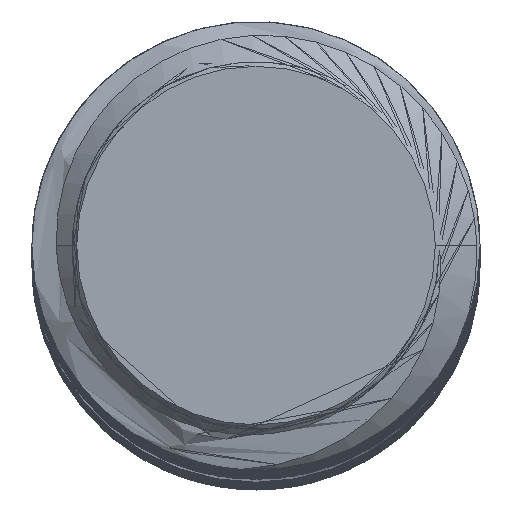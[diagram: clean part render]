
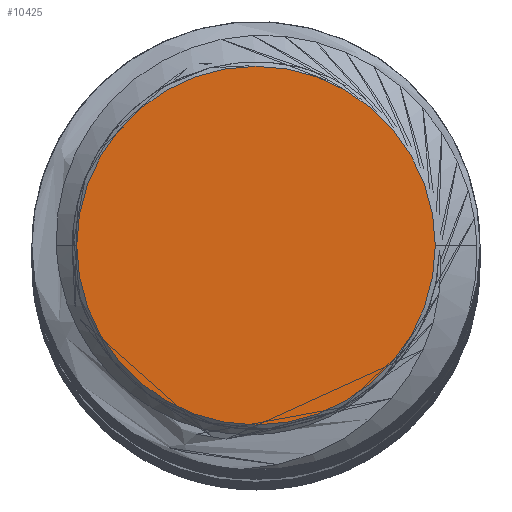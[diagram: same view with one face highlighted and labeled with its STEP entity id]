
A CAD part, top view. The second image highlights one B-rep face of the part: STEP entity #10425.
In plain terms, the highlighted planar face has unit normal (0, 0, 1).
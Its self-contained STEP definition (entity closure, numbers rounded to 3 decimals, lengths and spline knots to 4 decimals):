
#1847 = VERTEX_POINT ( 'NONE', #41661 ) ;
#2759 = VERTEX_POINT ( 'NONE', #13236 ) ;
#4258 = CARTESIAN_POINT ( 'NONE',  ( 0., 0., 260. ) ) ;
#9347 = DIRECTION ( 'NONE',  ( 0., 0., 1. ) ) ;
#10425 = ADVANCED_FACE ( 'NONE', ( #48718 ), #13663, .T. ) ;
#11607 = DIRECTION ( 'NONE',  ( 0., 0., 1. ) ) ;
#12484 = EDGE_CURVE ( 'NONE', #1847, #2759, #40211, .T. ) ;
#13236 = CARTESIAN_POINT ( 'NONE',  ( -4., 0., 260. ) ) ;
#13663 = PLANE ( 'NONE',  #56717 ) ;
#17503 = EDGE_CURVE ( 'NONE', #2759, #1847, #51868, .T. ) ;
#21799 = AXIS2_PLACEMENT_3D ( 'NONE', #44395, #9347, #38872 ) ;
#32280 = EDGE_LOOP ( 'NONE', ( #63804, #33268 ) ) ;
#33268 = ORIENTED_EDGE ( 'NONE', *, *, #12484, .T. ) ;
#38002 = DIRECTION ( 'NONE',  ( 0., 0., 1. ) ) ;
#38872 = DIRECTION ( 'NONE',  ( 1., 0., 0. ) ) ;
#40211 = CIRCLE ( 'NONE', #48435, 4. ) ;
#41145 = DIRECTION ( 'NONE',  ( 1., 0., 0. ) ) ;
#41661 = CARTESIAN_POINT ( 'NONE',  ( 4., 0., 260. ) ) ;
#44395 = CARTESIAN_POINT ( 'NONE',  ( 0., 0., 260. ) ) ;
#48063 = DIRECTION ( 'NONE',  ( 1., 0., 0. ) ) ;
#48435 = AXIS2_PLACEMENT_3D ( 'NONE', #56268, #11607, #41145 ) ;
#48718 = FACE_OUTER_BOUND ( 'NONE', #32280, .T. ) ;
#51868 = CIRCLE ( 'NONE', #21799, 4. ) ;
#56268 = CARTESIAN_POINT ( 'NONE',  ( 0., 0., 260. ) ) ;
#56717 = AXIS2_PLACEMENT_3D ( 'NONE', #4258, #38002, #48063 ) ;
#63804 = ORIENTED_EDGE ( 'NONE', *, *, #17503, .T. ) ;
